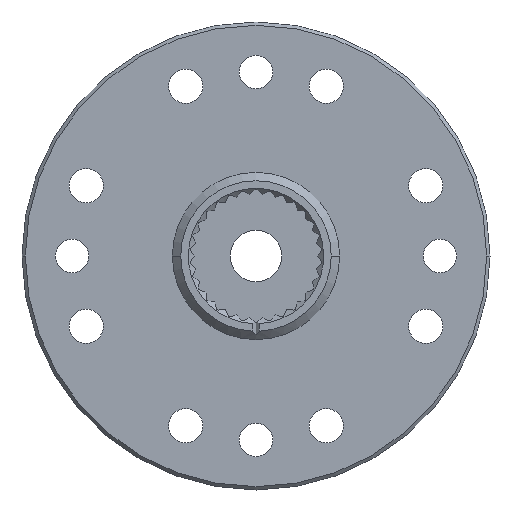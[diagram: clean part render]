
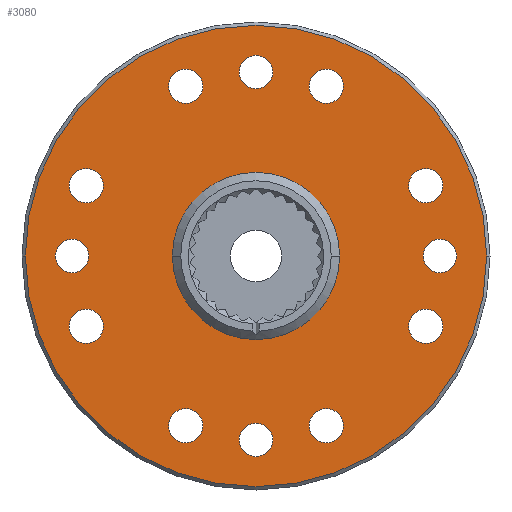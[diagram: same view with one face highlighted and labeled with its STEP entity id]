
A CAD part, front view. The second image highlights one B-rep face of the part: STEP entity #3080.
In plain terms, the highlighted planar face has unit normal (0, -1, 0).
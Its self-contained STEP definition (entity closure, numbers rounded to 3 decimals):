
#63=CARTESIAN_POINT('',(0.,0.,0.));
#64=DIRECTION('',(0.,1.,0.));
#65=DIRECTION('',(1.,0.,0.));
#66=AXIS2_PLACEMENT_3D('',#63,#64,#65);
#68=CARTESIAN_POINT('',(0.,0.,0.));
#69=DIRECTION('',(0.,-1.,0.));
#70=DIRECTION('',(1.,0.,0.));
#71=AXIS2_PLACEMENT_3D('',#68,#69,#70);
#73=CARTESIAN_POINT('',(4.21,0.,-10.163));
#74=DIRECTION('',(0.,1.,0.));
#75=DIRECTION('',(1.,0.,0.));
#76=AXIS2_PLACEMENT_3D('',#73,#74,#75);
#78=CARTESIAN_POINT('',(4.21,0.,-10.163));
#79=DIRECTION('',(0.,1.,0.));
#80=DIRECTION('',(-1.,0.,0.));
#81=AXIS2_PLACEMENT_3D('',#78,#79,#80);
#83=CARTESIAN_POINT('',(10.163,0.,-4.21));
#84=DIRECTION('',(0.,1.,0.));
#85=DIRECTION('',(1.,0.,0.));
#86=AXIS2_PLACEMENT_3D('',#83,#84,#85);
#88=CARTESIAN_POINT('',(10.163,0.,-4.21));
#89=DIRECTION('',(0.,1.,0.));
#90=DIRECTION('',(-1.,0.,0.));
#91=AXIS2_PLACEMENT_3D('',#88,#89,#90);
#93=CARTESIAN_POINT('',(10.163,0.,4.21));
#94=DIRECTION('',(0.,1.,0.));
#95=DIRECTION('',(1.,0.,0.));
#96=AXIS2_PLACEMENT_3D('',#93,#94,#95);
#98=CARTESIAN_POINT('',(10.163,0.,4.21));
#99=DIRECTION('',(0.,1.,0.));
#100=DIRECTION('',(-1.,0.,0.));
#101=AXIS2_PLACEMENT_3D('',#98,#99,#100);
#103=CARTESIAN_POINT('',(4.21,0.,10.163));
#104=DIRECTION('',(0.,1.,0.));
#105=DIRECTION('',(1.,0.,0.));
#106=AXIS2_PLACEMENT_3D('',#103,#104,#105);
#108=CARTESIAN_POINT('',(4.21,0.,10.163));
#109=DIRECTION('',(0.,1.,0.));
#110=DIRECTION('',(-1.,0.,0.));
#111=AXIS2_PLACEMENT_3D('',#108,#109,#110);
#113=CARTESIAN_POINT('',(-4.21,0.,10.163));
#114=DIRECTION('',(0.,1.,0.));
#115=DIRECTION('',(1.,0.,0.));
#116=AXIS2_PLACEMENT_3D('',#113,#114,#115);
#118=CARTESIAN_POINT('',(-4.21,0.,10.163));
#119=DIRECTION('',(0.,1.,0.));
#120=DIRECTION('',(-1.,0.,0.));
#121=AXIS2_PLACEMENT_3D('',#118,#119,#120);
#123=CARTESIAN_POINT('',(-10.163,0.,4.21));
#124=DIRECTION('',(0.,1.,0.));
#125=DIRECTION('',(1.,0.,0.));
#126=AXIS2_PLACEMENT_3D('',#123,#124,#125);
#128=CARTESIAN_POINT('',(-10.163,0.,4.21));
#129=DIRECTION('',(0.,1.,0.));
#130=DIRECTION('',(-1.,0.,0.));
#131=AXIS2_PLACEMENT_3D('',#128,#129,#130);
#133=CARTESIAN_POINT('',(-10.163,0.,-4.21));
#134=DIRECTION('',(0.,1.,0.));
#135=DIRECTION('',(1.,0.,0.));
#136=AXIS2_PLACEMENT_3D('',#133,#134,#135);
#138=CARTESIAN_POINT('',(-10.163,0.,-4.21));
#139=DIRECTION('',(0.,1.,0.));
#140=DIRECTION('',(-1.,0.,0.));
#141=AXIS2_PLACEMENT_3D('',#138,#139,#140);
#143=CARTESIAN_POINT('',(-4.21,0.,-10.163));
#144=DIRECTION('',(0.,1.,0.));
#145=DIRECTION('',(1.,0.,0.));
#146=AXIS2_PLACEMENT_3D('',#143,#144,#145);
#148=CARTESIAN_POINT('',(-4.21,0.,-10.163));
#149=DIRECTION('',(0.,1.,0.));
#150=DIRECTION('',(-1.,0.,0.));
#151=AXIS2_PLACEMENT_3D('',#148,#149,#150);
#153=CARTESIAN_POINT('',(0.,0.,-11.));
#154=DIRECTION('',(0.,1.,0.));
#155=DIRECTION('',(1.,0.,0.));
#156=AXIS2_PLACEMENT_3D('',#153,#154,#155);
#158=CARTESIAN_POINT('',(0.,0.,-11.));
#159=DIRECTION('',(0.,1.,0.));
#160=DIRECTION('',(-1.,0.,0.));
#161=AXIS2_PLACEMENT_3D('',#158,#159,#160);
#163=CARTESIAN_POINT('',(0.,0.,11.));
#164=DIRECTION('',(0.,1.,0.));
#165=DIRECTION('',(1.,0.,0.));
#166=AXIS2_PLACEMENT_3D('',#163,#164,#165);
#168=CARTESIAN_POINT('',(0.,0.,11.));
#169=DIRECTION('',(0.,1.,0.));
#170=DIRECTION('',(-1.,0.,0.));
#171=AXIS2_PLACEMENT_3D('',#168,#169,#170);
#173=CARTESIAN_POINT('',(11.,0.,0.));
#174=DIRECTION('',(0.,1.,0.));
#175=DIRECTION('',(1.,0.,0.));
#176=AXIS2_PLACEMENT_3D('',#173,#174,#175);
#178=CARTESIAN_POINT('',(11.,0.,0.));
#179=DIRECTION('',(0.,1.,0.));
#180=DIRECTION('',(-1.,0.,0.));
#181=AXIS2_PLACEMENT_3D('',#178,#179,#180);
#183=CARTESIAN_POINT('',(-11.,0.,0.));
#184=DIRECTION('',(0.,1.,0.));
#185=DIRECTION('',(1.,0.,0.));
#186=AXIS2_PLACEMENT_3D('',#183,#184,#185);
#188=CARTESIAN_POINT('',(-11.,0.,0.));
#189=DIRECTION('',(0.,1.,0.));
#190=DIRECTION('',(-1.,0.,0.));
#191=AXIS2_PLACEMENT_3D('',#188,#189,#190);
#202=CARTESIAN_POINT('',(0.,0.,0.));
#203=DIRECTION('',(0.,-1.,0.));
#204=DIRECTION('',(1.,0.,0.));
#205=AXIS2_PLACEMENT_3D('',#202,#203,#204);
#2441=CARTESIAN_POINT('',(0.,0.,0.));
#2442=DIRECTION('',(0.,1.,0.));
#2443=DIRECTION('',(1.,0.,0.));
#2444=AXIS2_PLACEMENT_3D('',#2441,#2442,#2443);
#2446=CARTESIAN_POINT('',(5.,0.,0.));
#2447=CARTESIAN_POINT('',(-5.,0.,0.));
#2448=VERTEX_POINT('',#2446);
#2449=VERTEX_POINT('',#2447);
#2466=CARTESIAN_POINT('',(13.8,0.,0.));
#2467=CARTESIAN_POINT('',(-13.8,0.,0.));
#2468=VERTEX_POINT('',#2466);
#2469=VERTEX_POINT('',#2467);
#2505=CARTESIAN_POINT('',(5.235,0.,-10.163));
#2506=CARTESIAN_POINT('',(3.185,0.,-10.163));
#2507=VERTEX_POINT('',#2505);
#2508=VERTEX_POINT('',#2506);
#2517=CARTESIAN_POINT('',(11.188,0.,-4.21));
#2518=CARTESIAN_POINT('',(9.138,0.,-4.21));
#2519=VERTEX_POINT('',#2517);
#2520=VERTEX_POINT('',#2518);
#2529=CARTESIAN_POINT('',(11.188,0.,4.21));
#2530=CARTESIAN_POINT('',(9.138,0.,4.21));
#2531=VERTEX_POINT('',#2529);
#2532=VERTEX_POINT('',#2530);
#2541=CARTESIAN_POINT('',(5.235,0.,10.163));
#2542=CARTESIAN_POINT('',(3.185,0.,10.163));
#2543=VERTEX_POINT('',#2541);
#2544=VERTEX_POINT('',#2542);
#2553=CARTESIAN_POINT('',(-3.185,0.,10.163));
#2554=CARTESIAN_POINT('',(-5.235,0.,10.163));
#2555=VERTEX_POINT('',#2553);
#2556=VERTEX_POINT('',#2554);
#2565=CARTESIAN_POINT('',(-9.138,0.,4.21));
#2566=CARTESIAN_POINT('',(-11.188,0.,4.21));
#2567=VERTEX_POINT('',#2565);
#2568=VERTEX_POINT('',#2566);
#2577=CARTESIAN_POINT('',(-9.138,0.,-4.21));
#2578=CARTESIAN_POINT('',(-11.188,0.,-4.21));
#2579=VERTEX_POINT('',#2577);
#2580=VERTEX_POINT('',#2578);
#2589=CARTESIAN_POINT('',(-3.185,0.,-10.163));
#2590=CARTESIAN_POINT('',(-5.235,0.,-10.163));
#2591=VERTEX_POINT('',#2589);
#2592=VERTEX_POINT('',#2590);
#2805=CARTESIAN_POINT('',(1.,0.,-11.));
#2806=CARTESIAN_POINT('',(-1.,0.,-11.));
#2807=VERTEX_POINT('',#2805);
#2808=VERTEX_POINT('',#2806);
#2809=CARTESIAN_POINT('',(1.,0.,11.));
#2810=CARTESIAN_POINT('',(-1.,0.,11.));
#2811=VERTEX_POINT('',#2809);
#2812=VERTEX_POINT('',#2810);
#2870=CARTESIAN_POINT('',(12.,0.,0.));
#2871=CARTESIAN_POINT('',(10.,0.,0.));
#2872=VERTEX_POINT('',#2870);
#2873=VERTEX_POINT('',#2871);
#2874=CARTESIAN_POINT('',(-10.,0.,0.));
#2875=CARTESIAN_POINT('',(-12.,0.,0.));
#2876=VERTEX_POINT('',#2874);
#2877=VERTEX_POINT('',#2875);
#2993=CARTESIAN_POINT('',(0.,0.,0.));
#2994=DIRECTION('',(0.,-1.,0.));
#2995=DIRECTION('',(-1.,0.,0.));
#2996=AXIS2_PLACEMENT_3D('',#2993,#2994,#2995);
#2997=PLANE('',#2996);
#2999=ORIENTED_EDGE('',*,*,#2998,.F.);
#3001=ORIENTED_EDGE('',*,*,#3000,.T.);
#3002=EDGE_LOOP('',(#2999,#3001));
#3003=FACE_OUTER_BOUND('',#3002,.F.);
#3004=ORIENTED_EDGE('',*,*,#2986,.F.);
#3005=ORIENTED_EDGE('',*,*,#2975,.T.);
#3006=EDGE_LOOP('',(#3004,#3005));
#3007=FACE_BOUND('',#3006,.F.);
#3009=ORIENTED_EDGE('',*,*,#3008,.F.);
#3011=ORIENTED_EDGE('',*,*,#3010,.F.);
#3012=EDGE_LOOP('',(#3009,#3011));
#3013=FACE_BOUND('',#3012,.F.);
#3015=ORIENTED_EDGE('',*,*,#3014,.F.);
#3017=ORIENTED_EDGE('',*,*,#3016,.F.);
#3018=EDGE_LOOP('',(#3015,#3017));
#3019=FACE_BOUND('',#3018,.F.);
#3021=ORIENTED_EDGE('',*,*,#3020,.F.);
#3023=ORIENTED_EDGE('',*,*,#3022,.F.);
#3024=EDGE_LOOP('',(#3021,#3023));
#3025=FACE_BOUND('',#3024,.F.);
#3027=ORIENTED_EDGE('',*,*,#3026,.F.);
#3029=ORIENTED_EDGE('',*,*,#3028,.F.);
#3030=EDGE_LOOP('',(#3027,#3029));
#3031=FACE_BOUND('',#3030,.F.);
#3033=ORIENTED_EDGE('',*,*,#3032,.F.);
#3035=ORIENTED_EDGE('',*,*,#3034,.F.);
#3036=EDGE_LOOP('',(#3033,#3035));
#3037=FACE_BOUND('',#3036,.F.);
#3039=ORIENTED_EDGE('',*,*,#3038,.F.);
#3041=ORIENTED_EDGE('',*,*,#3040,.F.);
#3042=EDGE_LOOP('',(#3039,#3041));
#3043=FACE_BOUND('',#3042,.F.);
#3045=ORIENTED_EDGE('',*,*,#3044,.F.);
#3047=ORIENTED_EDGE('',*,*,#3046,.F.);
#3048=EDGE_LOOP('',(#3045,#3047));
#3049=FACE_BOUND('',#3048,.F.);
#3051=ORIENTED_EDGE('',*,*,#3050,.F.);
#3053=ORIENTED_EDGE('',*,*,#3052,.F.);
#3054=EDGE_LOOP('',(#3051,#3053));
#3055=FACE_BOUND('',#3054,.F.);
#3057=ORIENTED_EDGE('',*,*,#3056,.F.);
#3059=ORIENTED_EDGE('',*,*,#3058,.F.);
#3060=EDGE_LOOP('',(#3057,#3059));
#3061=FACE_BOUND('',#3060,.F.);
#3063=ORIENTED_EDGE('',*,*,#3062,.F.);
#3065=ORIENTED_EDGE('',*,*,#3064,.F.);
#3066=EDGE_LOOP('',(#3063,#3065));
#3067=FACE_BOUND('',#3066,.F.);
#3069=ORIENTED_EDGE('',*,*,#3068,.F.);
#3071=ORIENTED_EDGE('',*,*,#3070,.F.);
#3072=EDGE_LOOP('',(#3069,#3071));
#3073=FACE_BOUND('',#3072,.F.);
#3075=ORIENTED_EDGE('',*,*,#3074,.F.);
#3077=ORIENTED_EDGE('',*,*,#3076,.F.);
#3078=EDGE_LOOP('',(#3075,#3077));
#3079=FACE_BOUND('',#3078,.F.);
#3080=ADVANCED_FACE('',(#3003,#3007,#3013,#3019,#3025,#3031,#3037,#3043,#3049,
#3055,#3061,#3067,#3073,#3079),#2997,.T.);
#67=CIRCLE('',#66,5.);
#72=CIRCLE('',#71,5.);
#77=CIRCLE('',#76,1.025);
#82=CIRCLE('',#81,1.025);
#87=CIRCLE('',#86,1.025);
#92=CIRCLE('',#91,1.025);
#97=CIRCLE('',#96,1.025);
#102=CIRCLE('',#101,1.025);
#107=CIRCLE('',#106,1.025);
#112=CIRCLE('',#111,1.025);
#117=CIRCLE('',#116,1.025);
#122=CIRCLE('',#121,1.025);
#127=CIRCLE('',#126,1.025);
#132=CIRCLE('',#131,1.025);
#137=CIRCLE('',#136,1.025);
#142=CIRCLE('',#141,1.025);
#147=CIRCLE('',#146,1.025);
#152=CIRCLE('',#151,1.025);
#157=CIRCLE('',#156,1.);
#162=CIRCLE('',#161,1.);
#167=CIRCLE('',#166,1.);
#172=CIRCLE('',#171,1.);
#177=CIRCLE('',#176,1.);
#182=CIRCLE('',#181,1.);
#187=CIRCLE('',#186,1.);
#192=CIRCLE('',#191,1.);
#206=CIRCLE('',#205,13.8);
#2445=CIRCLE('',#2444,13.8);
#2975=EDGE_CURVE('',#2448,#2449,#72,.T.);
#2986=EDGE_CURVE('',#2448,#2449,#67,.T.);
#2998=EDGE_CURVE('',#2468,#2469,#206,.T.);
#3000=EDGE_CURVE('',#2468,#2469,#2445,.T.);
#3008=EDGE_CURVE('',#2507,#2508,#77,.T.);
#3010=EDGE_CURVE('',#2508,#2507,#82,.T.);
#3014=EDGE_CURVE('',#2519,#2520,#87,.T.);
#3016=EDGE_CURVE('',#2520,#2519,#92,.T.);
#3020=EDGE_CURVE('',#2531,#2532,#97,.T.);
#3022=EDGE_CURVE('',#2532,#2531,#102,.T.);
#3026=EDGE_CURVE('',#2543,#2544,#107,.T.);
#3028=EDGE_CURVE('',#2544,#2543,#112,.T.);
#3032=EDGE_CURVE('',#2555,#2556,#117,.T.);
#3034=EDGE_CURVE('',#2556,#2555,#122,.T.);
#3038=EDGE_CURVE('',#2567,#2568,#127,.T.);
#3040=EDGE_CURVE('',#2568,#2567,#132,.T.);
#3044=EDGE_CURVE('',#2579,#2580,#137,.T.);
#3046=EDGE_CURVE('',#2580,#2579,#142,.T.);
#3050=EDGE_CURVE('',#2591,#2592,#147,.T.);
#3052=EDGE_CURVE('',#2592,#2591,#152,.T.);
#3056=EDGE_CURVE('',#2807,#2808,#157,.T.);
#3058=EDGE_CURVE('',#2808,#2807,#162,.T.);
#3062=EDGE_CURVE('',#2811,#2812,#167,.T.);
#3064=EDGE_CURVE('',#2812,#2811,#172,.T.);
#3068=EDGE_CURVE('',#2872,#2873,#177,.T.);
#3070=EDGE_CURVE('',#2873,#2872,#182,.T.);
#3074=EDGE_CURVE('',#2876,#2877,#187,.T.);
#3076=EDGE_CURVE('',#2877,#2876,#192,.T.);
